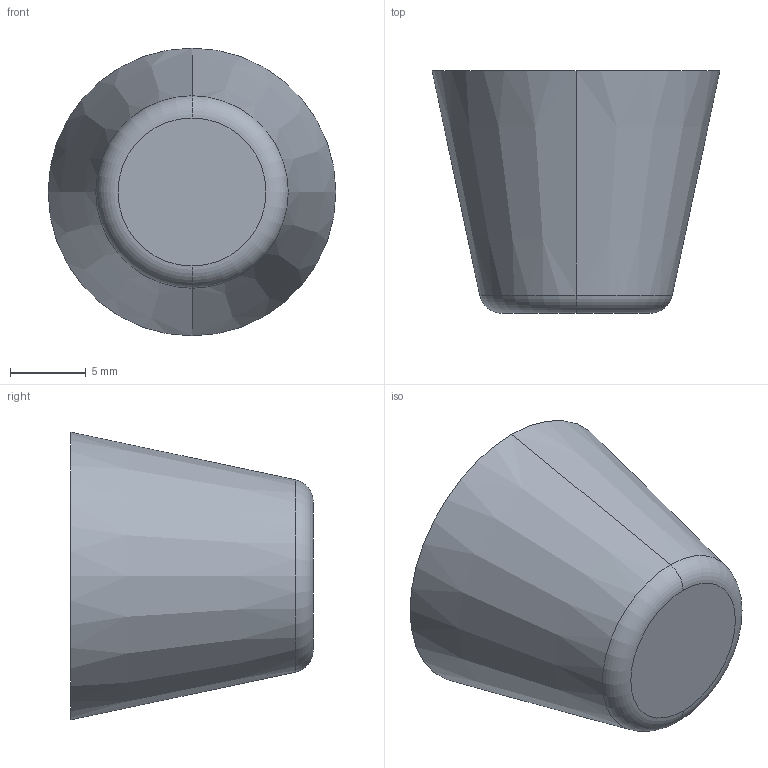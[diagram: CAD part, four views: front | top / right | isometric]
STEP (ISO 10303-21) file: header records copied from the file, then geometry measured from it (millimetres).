
FILE_DESCRIPTION (( 'STEP AP214' ), '1' );
FILE_NAME ('253-19-M540.step', '2016-03-03T11:18:18', ( 'user' ), ( '' ), 'SwSTEP 2.0', 'SolidWorks 2015', '' );
FILE_SCHEMA (( 'AUTOMOTIVE_DESIGN' ));
Length unit declared in the file: millimetre
Products named in the file (1): 253-19-M540
Bounding box: 19 x 16 x 19 mm (x, y, z)
Volume: 3005.5 mm3; surface area: 2357.5 mm2
Topology: 2 solids, 2 shells, 22 faces, 42 edges, 25 vertices
Faces by surface type: cone 10, plane 6, cylinder 4, torus 2
Entity records: 692 total; most frequent: DIRECTION 112, CARTESIAN_POINT 88, ORIENTED_EDGE 80, AXIS2_PLACEMENT_3D 49, EDGE_CURVE 40, CIRCLE 26, VERTEX_POINT 25, EDGE_LOOP 25
